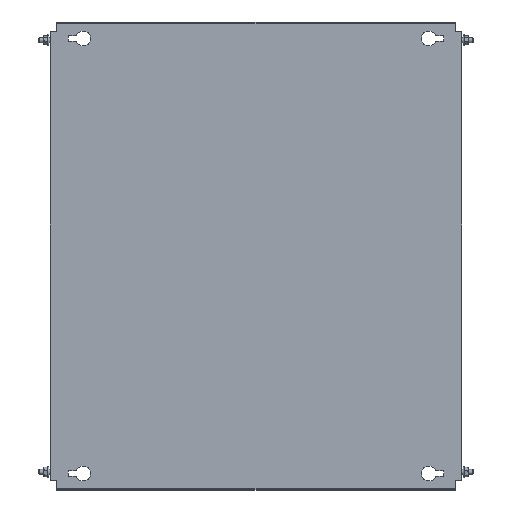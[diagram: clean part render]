
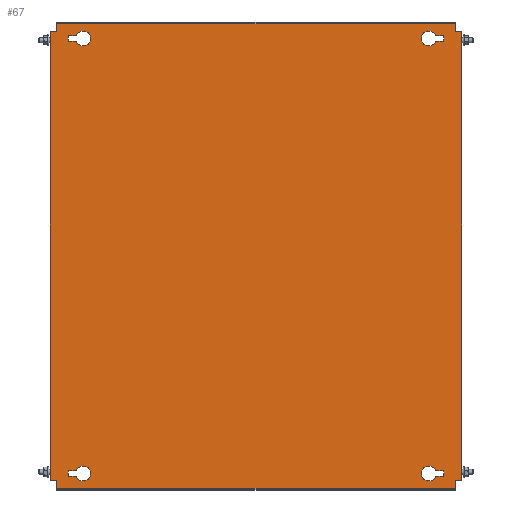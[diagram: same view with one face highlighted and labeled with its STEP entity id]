
A CAD part, top view. The second image highlights one B-rep face of the part: STEP entity #67.
In plain terms, the highlighted planar face has unit normal (0, 0, 1).
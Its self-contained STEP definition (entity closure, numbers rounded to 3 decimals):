
#67 = ADVANCED_FACE('',(#68,#103,#138,#300,#335),#370,.T.);
#68 = FACE_BOUND('',#69,.T.);
#69 = EDGE_LOOP('',(#70,#80,#88,#96));
#70 = ORIENTED_EDGE('',*,*,#71,.T.);
#71 = EDGE_CURVE('',#72,#74,#76,.T.);
#72 = VERTEX_POINT('',#73);
#73 = CARTESIAN_POINT('',(218.393,267.75,2.));
#74 = VERTEX_POINT('',#75);
#75 = CARTESIAN_POINT('',(228.,267.75,2.));
#76 = LINE('',#77,#78);
#77 = CARTESIAN_POINT('',(227.,267.75,2.));
#78 = VECTOR('',#79,1.);
#79 = DIRECTION('',(1.,0.,0.));
#80 = ORIENTED_EDGE('',*,*,#81,.T.);
#81 = EDGE_CURVE('',#74,#82,#84,.T.);
#82 = VERTEX_POINT('',#83);
#83 = CARTESIAN_POINT('',(228.,261.25,2.));
#84 = LINE('',#85,#86);
#85 = CARTESIAN_POINT('',(228.,267.75,2.));
#86 = VECTOR('',#87,1.);
#87 = DIRECTION('',(0.,-1.,0.));
#88 = ORIENTED_EDGE('',*,*,#89,.T.);
#89 = EDGE_CURVE('',#82,#90,#92,.T.);
#90 = VERTEX_POINT('',#91);
#91 = CARTESIAN_POINT('',(218.393,261.25,2.));
#92 = LINE('',#93,#94);
#93 = CARTESIAN_POINT('',(227.,261.25,2.));
#94 = VECTOR('',#95,1.);
#95 = DIRECTION('',(-1.,0.,0.));
#96 = ORIENTED_EDGE('',*,*,#97,.T.);
#97 = EDGE_CURVE('',#90,#72,#98,.T.);
#98 = CIRCLE('',#99,9.);
#99 = AXIS2_PLACEMENT_3D('',#100,#101,#102);
#100 = CARTESIAN_POINT('',(210.,264.5,2.));
#101 = DIRECTION('',(0.,0.,-1.));
#102 = DIRECTION('',(1.,0.,0.));
#103 = FACE_BOUND('',#104,.T.);
#104 = EDGE_LOOP('',(#105,#115,#123,#131));
#105 = ORIENTED_EDGE('',*,*,#106,.T.);
#106 = EDGE_CURVE('',#107,#109,#111,.T.);
#107 = VERTEX_POINT('',#108);
#108 = CARTESIAN_POINT('',(-218.393,-267.75,2.));
#109 = VERTEX_POINT('',#110);
#110 = CARTESIAN_POINT('',(-228.,-267.75,2.));
#111 = LINE('',#112,#113);
#112 = CARTESIAN_POINT('',(-227.,-267.75,2.));
#113 = VECTOR('',#114,1.);
#114 = DIRECTION('',(-1.,0.,0.));
#115 = ORIENTED_EDGE('',*,*,#116,.T.);
#116 = EDGE_CURVE('',#109,#117,#119,.T.);
#117 = VERTEX_POINT('',#118);
#118 = CARTESIAN_POINT('',(-228.,-261.25,2.));
#119 = LINE('',#120,#121);
#120 = CARTESIAN_POINT('',(-228.,-267.75,2.));
#121 = VECTOR('',#122,1.);
#122 = DIRECTION('',(0.,1.,0.));
#123 = ORIENTED_EDGE('',*,*,#124,.T.);
#124 = EDGE_CURVE('',#117,#125,#127,.T.);
#125 = VERTEX_POINT('',#126);
#126 = CARTESIAN_POINT('',(-218.393,-261.25,2.));
#127 = LINE('',#128,#129);
#128 = CARTESIAN_POINT('',(-227.,-261.25,2.));
#129 = VECTOR('',#130,1.);
#130 = DIRECTION('',(1.,0.,-0.));
#131 = ORIENTED_EDGE('',*,*,#132,.T.);
#132 = EDGE_CURVE('',#125,#107,#133,.T.);
#133 = CIRCLE('',#134,9.);
#134 = AXIS2_PLACEMENT_3D('',#135,#136,#137);
#135 = CARTESIAN_POINT('',(-210.,-264.5,2.));
#136 = DIRECTION('',(0.,0.,-1.));
#137 = DIRECTION('',(-1.,0.,0.));
#138 = FACE_BOUND('',#139,.T.);
#139 = EDGE_LOOP('',(#140,#150,#158,#166,#174,#182,#190,#198,#206,#214,
    #222,#230,#238,#246,#254,#262,#270,#278,#286,#294));
#140 = ORIENTED_EDGE('',*,*,#141,.F.);
#141 = EDGE_CURVE('',#142,#144,#146,.T.);
#142 = VERTEX_POINT('',#143);
#143 = CARTESIAN_POINT('',(-247.4,272.5,2.));
#144 = VERTEX_POINT('',#145);
#145 = CARTESIAN_POINT('',(-242.,272.5,2.));
#146 = LINE('',#147,#148);
#147 = CARTESIAN_POINT('',(-248.,272.5,2.));
#148 = VECTOR('',#149,1.);
#149 = DIRECTION('',(1.,0.,-0.));
#150 = ORIENTED_EDGE('',*,*,#151,.T.);
#151 = EDGE_CURVE('',#142,#152,#154,.T.);
#152 = VERTEX_POINT('',#153);
#153 = CARTESIAN_POINT('',(-250.,272.5,2.));
#154 = LINE('',#155,#156);
#155 = CARTESIAN_POINT('',(-247.4,272.5,2.));
#156 = VECTOR('',#157,1.);
#157 = DIRECTION('',(-1.,0.,0.));
#158 = ORIENTED_EDGE('',*,*,#159,.F.);
#159 = EDGE_CURVE('',#160,#152,#162,.T.);
#160 = VERTEX_POINT('',#161);
#161 = CARTESIAN_POINT('',(-250.,-272.5,2.));
#162 = LINE('',#163,#164);
#163 = CARTESIAN_POINT('',(-250.,-282.5,2.));
#164 = VECTOR('',#165,1.);
#165 = DIRECTION('',(0.,1.,-0.));
#166 = ORIENTED_EDGE('',*,*,#167,.F.);
#167 = EDGE_CURVE('',#168,#160,#170,.T.);
#168 = VERTEX_POINT('',#169);
#169 = CARTESIAN_POINT('',(-247.4,-272.5,2.));
#170 = LINE('',#171,#172);
#171 = CARTESIAN_POINT('',(-242.,-272.5,2.));
#172 = VECTOR('',#173,1.);
#173 = DIRECTION('',(-1.,-0.,-0.));
#174 = ORIENTED_EDGE('',*,*,#175,.T.);
#175 = EDGE_CURVE('',#168,#176,#178,.T.);
#176 = VERTEX_POINT('',#177);
#177 = CARTESIAN_POINT('',(-242.,-272.5,2.));
#178 = LINE('',#179,#180);
#179 = CARTESIAN_POINT('',(-248.,-272.5,2.));
#180 = VECTOR('',#181,1.);
#181 = DIRECTION('',(1.,0.,-0.));
#182 = ORIENTED_EDGE('',*,*,#183,.T.);
#183 = EDGE_CURVE('',#176,#184,#186,.T.);
#184 = VERTEX_POINT('',#185);
#185 = CARTESIAN_POINT('',(-242.,-281.9,2.));
#186 = LINE('',#187,#188);
#187 = CARTESIAN_POINT('',(-242.,282.5,2.));
#188 = VECTOR('',#189,1.);
#189 = DIRECTION('',(0.,-1.,0.));
#190 = ORIENTED_EDGE('',*,*,#191,.T.);
#191 = EDGE_CURVE('',#184,#192,#194,.T.);
#192 = VERTEX_POINT('',#193);
#193 = CARTESIAN_POINT('',(-242.,-282.5,2.));
#194 = LINE('',#195,#196);
#195 = CARTESIAN_POINT('',(-242.,-281.9,2.));
#196 = VECTOR('',#197,1.);
#197 = DIRECTION('',(-0.,-1.,-0.));
#198 = ORIENTED_EDGE('',*,*,#199,.T.);
#199 = EDGE_CURVE('',#192,#200,#202,.T.);
#200 = VERTEX_POINT('',#201);
#201 = CARTESIAN_POINT('',(242.,-282.5,2.));
#202 = LINE('',#203,#204);
#203 = CARTESIAN_POINT('',(242.,-282.5,2.));
#204 = VECTOR('',#205,1.);
#205 = DIRECTION('',(1.,0.,0.));
#206 = ORIENTED_EDGE('',*,*,#207,.F.);
#207 = EDGE_CURVE('',#208,#200,#210,.T.);
#208 = VERTEX_POINT('',#209);
#209 = CARTESIAN_POINT('',(242.,-281.9,2.));
#210 = LINE('',#211,#212);
#211 = CARTESIAN_POINT('',(242.,-282.5,2.));
#212 = VECTOR('',#213,1.);
#213 = DIRECTION('',(0.,-1.,0.));
#214 = ORIENTED_EDGE('',*,*,#215,.T.);
#215 = EDGE_CURVE('',#208,#216,#218,.T.);
#216 = VERTEX_POINT('',#217);
#217 = CARTESIAN_POINT('',(242.,-272.5,2.));
#218 = LINE('',#219,#220);
#219 = CARTESIAN_POINT('',(242.,282.5,2.));
#220 = VECTOR('',#221,1.);
#221 = DIRECTION('',(0.,1.,-0.));
#222 = ORIENTED_EDGE('',*,*,#223,.F.);
#223 = EDGE_CURVE('',#224,#216,#226,.T.);
#224 = VERTEX_POINT('',#225);
#225 = CARTESIAN_POINT('',(247.4,-272.5,2.));
#226 = LINE('',#227,#228);
#227 = CARTESIAN_POINT('',(248.,-272.5,2.));
#228 = VECTOR('',#229,1.);
#229 = DIRECTION('',(-1.,0.,-0.));
#230 = ORIENTED_EDGE('',*,*,#231,.T.);
#231 = EDGE_CURVE('',#224,#232,#234,.T.);
#232 = VERTEX_POINT('',#233);
#233 = CARTESIAN_POINT('',(250.,-272.5,2.));
#234 = LINE('',#235,#236);
#235 = CARTESIAN_POINT('',(247.4,-272.5,2.));
#236 = VECTOR('',#237,1.);
#237 = DIRECTION('',(1.,0.,0.));
#238 = ORIENTED_EDGE('',*,*,#239,.F.);
#239 = EDGE_CURVE('',#240,#232,#242,.T.);
#240 = VERTEX_POINT('',#241);
#241 = CARTESIAN_POINT('',(250.,272.5,2.));
#242 = LINE('',#243,#244);
#243 = CARTESIAN_POINT('',(250.,-282.5,2.));
#244 = VECTOR('',#245,1.);
#245 = DIRECTION('',(0.,-1.,-0.));
#246 = ORIENTED_EDGE('',*,*,#247,.F.);
#247 = EDGE_CURVE('',#248,#240,#250,.T.);
#248 = VERTEX_POINT('',#249);
#249 = CARTESIAN_POINT('',(247.4,272.5,2.));
#250 = LINE('',#251,#252);
#251 = CARTESIAN_POINT('',(-242.,272.5,2.));
#252 = VECTOR('',#253,1.);
#253 = DIRECTION('',(1.,-0.,-0.));
#254 = ORIENTED_EDGE('',*,*,#255,.T.);
#255 = EDGE_CURVE('',#248,#256,#258,.T.);
#256 = VERTEX_POINT('',#257);
#257 = CARTESIAN_POINT('',(242.,272.5,2.));
#258 = LINE('',#259,#260);
#259 = CARTESIAN_POINT('',(248.,272.5,2.));
#260 = VECTOR('',#261,1.);
#261 = DIRECTION('',(-1.,0.,-0.));
#262 = ORIENTED_EDGE('',*,*,#263,.T.);
#263 = EDGE_CURVE('',#256,#264,#266,.T.);
#264 = VERTEX_POINT('',#265);
#265 = CARTESIAN_POINT('',(242.,281.9,2.));
#266 = LINE('',#267,#268);
#267 = CARTESIAN_POINT('',(242.,282.5,2.));
#268 = VECTOR('',#269,1.);
#269 = DIRECTION('',(0.,1.,-0.));
#270 = ORIENTED_EDGE('',*,*,#271,.T.);
#271 = EDGE_CURVE('',#264,#272,#274,.T.);
#272 = VERTEX_POINT('',#273);
#273 = CARTESIAN_POINT('',(242.,282.5,2.));
#274 = LINE('',#275,#276);
#275 = CARTESIAN_POINT('',(242.,281.9,2.));
#276 = VECTOR('',#277,1.);
#277 = DIRECTION('',(-0.,1.,-0.));
#278 = ORIENTED_EDGE('',*,*,#279,.T.);
#279 = EDGE_CURVE('',#272,#280,#282,.T.);
#280 = VERTEX_POINT('',#281);
#281 = CARTESIAN_POINT('',(-242.,282.5,2.));
#282 = LINE('',#283,#284);
#283 = CARTESIAN_POINT('',(-242.,282.5,2.));
#284 = VECTOR('',#285,1.);
#285 = DIRECTION('',(-1.,0.,0.));
#286 = ORIENTED_EDGE('',*,*,#287,.F.);
#287 = EDGE_CURVE('',#288,#280,#290,.T.);
#288 = VERTEX_POINT('',#289);
#289 = CARTESIAN_POINT('',(-242.,281.9,2.));
#290 = LINE('',#291,#292);
#291 = CARTESIAN_POINT('',(-242.,-282.5,2.));
#292 = VECTOR('',#293,1.);
#293 = DIRECTION('',(0.,1.,-0.));
#294 = ORIENTED_EDGE('',*,*,#295,.T.);
#295 = EDGE_CURVE('',#288,#144,#296,.T.);
#296 = LINE('',#297,#298);
#297 = CARTESIAN_POINT('',(-242.,282.5,2.));
#298 = VECTOR('',#299,1.);
#299 = DIRECTION('',(0.,-1.,0.));
#300 = FACE_BOUND('',#301,.T.);
#301 = EDGE_LOOP('',(#302,#312,#320,#328));
#302 = ORIENTED_EDGE('',*,*,#303,.F.);
#303 = EDGE_CURVE('',#304,#306,#308,.T.);
#304 = VERTEX_POINT('',#305);
#305 = CARTESIAN_POINT('',(228.,-261.25,2.));
#306 = VERTEX_POINT('',#307);
#307 = CARTESIAN_POINT('',(218.393,-261.25,2.));
#308 = LINE('',#309,#310);
#309 = CARTESIAN_POINT('',(218.393,-261.25,2.));
#310 = VECTOR('',#311,1.);
#311 = DIRECTION('',(-1.,0.,0.));
#312 = ORIENTED_EDGE('',*,*,#313,.F.);
#313 = EDGE_CURVE('',#314,#304,#316,.T.);
#314 = VERTEX_POINT('',#315);
#315 = CARTESIAN_POINT('',(228.,-267.75,2.));
#316 = LINE('',#317,#318);
#317 = CARTESIAN_POINT('',(228.,-261.25,2.));
#318 = VECTOR('',#319,1.);
#319 = DIRECTION('',(0.,1.,0.));
#320 = ORIENTED_EDGE('',*,*,#321,.F.);
#321 = EDGE_CURVE('',#322,#314,#324,.T.);
#322 = VERTEX_POINT('',#323);
#323 = CARTESIAN_POINT('',(218.393,-267.75,2.));
#324 = LINE('',#325,#326);
#325 = CARTESIAN_POINT('',(227.,-267.75,2.));
#326 = VECTOR('',#327,1.);
#327 = DIRECTION('',(1.,0.,0.));
#328 = ORIENTED_EDGE('',*,*,#329,.F.);
#329 = EDGE_CURVE('',#306,#322,#330,.T.);
#330 = CIRCLE('',#331,9.);
#331 = AXIS2_PLACEMENT_3D('',#332,#333,#334);
#332 = CARTESIAN_POINT('',(210.,-264.5,2.));
#333 = DIRECTION('',(0.,-0.,1.));
#334 = DIRECTION('',(1.,0.,0.));
#335 = FACE_BOUND('',#336,.T.);
#336 = EDGE_LOOP('',(#337,#347,#355,#363));
#337 = ORIENTED_EDGE('',*,*,#338,.F.);
#338 = EDGE_CURVE('',#339,#341,#343,.T.);
#339 = VERTEX_POINT('',#340);
#340 = CARTESIAN_POINT('',(-228.,261.25,2.));
#341 = VERTEX_POINT('',#342);
#342 = CARTESIAN_POINT('',(-218.393,261.25,2.));
#343 = LINE('',#344,#345);
#344 = CARTESIAN_POINT('',(-218.393,261.25,2.));
#345 = VECTOR('',#346,1.);
#346 = DIRECTION('',(1.,0.,0.));
#347 = ORIENTED_EDGE('',*,*,#348,.F.);
#348 = EDGE_CURVE('',#349,#339,#351,.T.);
#349 = VERTEX_POINT('',#350);
#350 = CARTESIAN_POINT('',(-228.,267.75,2.));
#351 = LINE('',#352,#353);
#352 = CARTESIAN_POINT('',(-228.,261.25,2.));
#353 = VECTOR('',#354,1.);
#354 = DIRECTION('',(0.,-1.,0.));
#355 = ORIENTED_EDGE('',*,*,#356,.F.);
#356 = EDGE_CURVE('',#357,#349,#359,.T.);
#357 = VERTEX_POINT('',#358);
#358 = CARTESIAN_POINT('',(-218.393,267.75,2.));
#359 = LINE('',#360,#361);
#360 = CARTESIAN_POINT('',(-227.,267.75,2.));
#361 = VECTOR('',#362,1.);
#362 = DIRECTION('',(-1.,0.,0.));
#363 = ORIENTED_EDGE('',*,*,#364,.F.);
#364 = EDGE_CURVE('',#341,#357,#365,.T.);
#365 = CIRCLE('',#366,9.);
#366 = AXIS2_PLACEMENT_3D('',#367,#368,#369);
#367 = CARTESIAN_POINT('',(-210.,264.5,2.));
#368 = DIRECTION('',(0.,-0.,1.));
#369 = DIRECTION('',(-1.,0.,0.));
#370 = PLANE('',#371);
#371 = AXIS2_PLACEMENT_3D('',#372,#373,#374);
#372 = CARTESIAN_POINT('',(-242.,-282.5,2.));
#373 = DIRECTION('',(-0.,0.,1.));
#374 = DIRECTION('',(1.,0.,0.));
